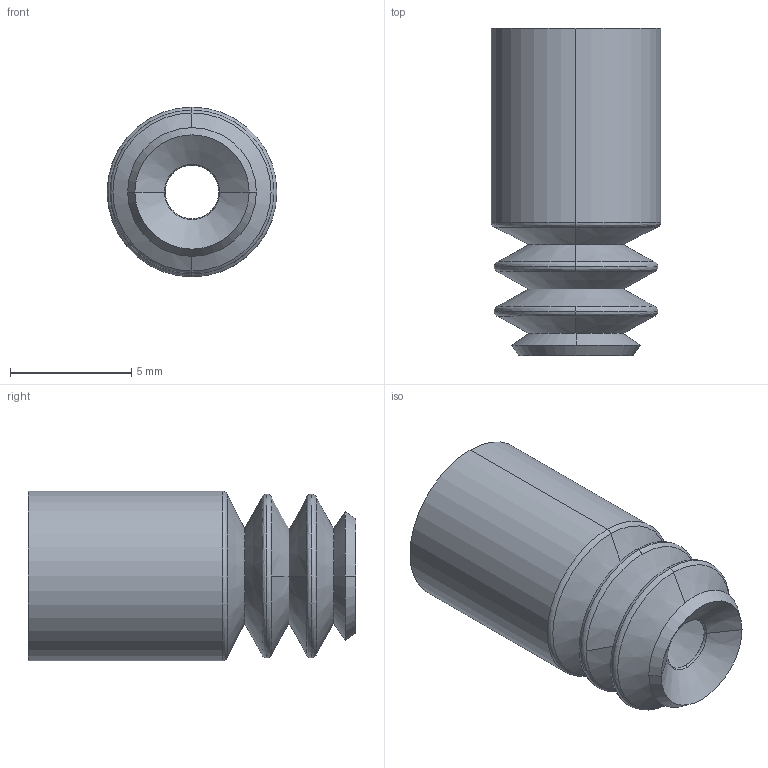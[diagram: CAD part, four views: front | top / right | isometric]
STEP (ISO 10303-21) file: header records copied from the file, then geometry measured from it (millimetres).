
FILE_DESCRIPTION (( 'STEP AP214' ), '1' );
FILE_NAME ('FG-5.STEP', '2023-03-07T06:40:27', ( 'Windows User' ), ( 'P R C' ), 'SwSTEP 2.0', 'SolidWorks 2019', '' );
FILE_SCHEMA (( 'AUTOMOTIVE_DESIGN' ));
Length unit declared in the file: millimetre
Products named in the file (1): FG-5
Bounding box: 7 x 13.5 x 7 mm (x, y, z)
Volume: 280.4 mm3; surface area: 589.5 mm2
Topology: 1 solids, 1 shells, 47 faces, 102 edges, 56 vertices
Faces by surface type: cone 26, bspline 16, cylinder 4, plane 1
Entity records: 1478 total; most frequent: CARTESIAN_POINT 494, DIRECTION 206, ORIENTED_EDGE 204, EDGE_CURVE 102, AXIS2_PLACEMENT_3D 88, CIRCLE 56, VERTEX_POINT 56, EDGE_LOOP 48
